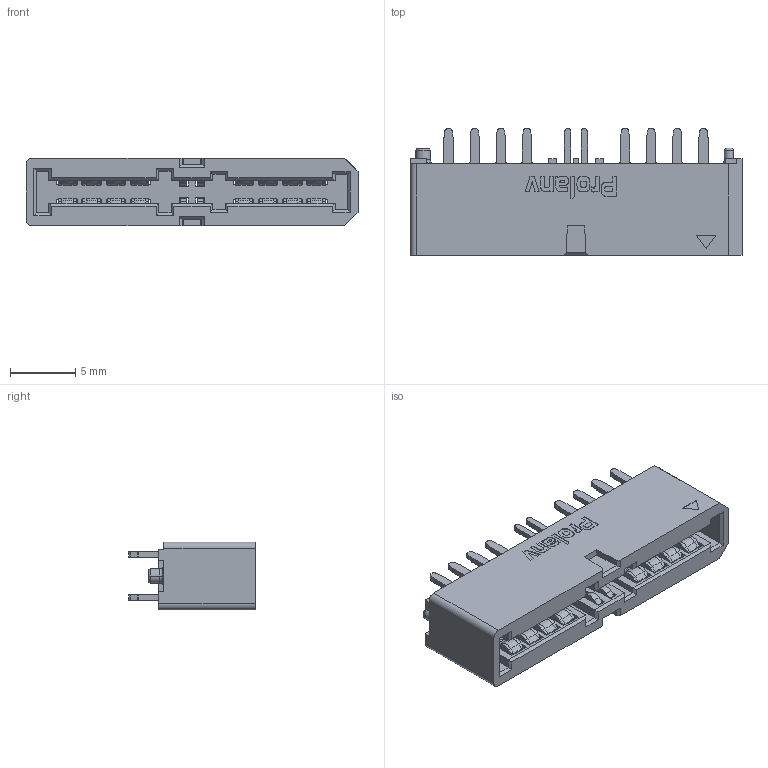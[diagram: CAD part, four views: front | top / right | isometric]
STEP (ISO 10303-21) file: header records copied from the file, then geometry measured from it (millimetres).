
FILE_DESCRIPTION((''),'2;1');
FILE_NAME('333','2024-02-28T16:18:12',('henry'),(''),'CREO PARAMETRIC BY PTC INC, 2023073','CREO PARAMETRIC BY PTC INC, 2023073','');
FILE_SCHEMA(('CONFIG_CONTROL_DESIGN'));
Length unit declared in the file: millimetre
Products named in the file (1): 333
Bounding box: 25.4 x 9.7 x 5.2 mm (x, y, z)
Volume: 585.4 mm3; surface area: 1874.6 mm2
Topology: 1 solids, 1 shells, 1485 faces, 4472 edges, 2978 vertices
Faces by surface type: plane 787, cylinder 532, extrusion 56, torus 44, bspline 34, sphere 32
Entity records: 52083 total; most frequent: CARTESIAN_POINT 10940, ORIENTED_EDGE 8944, DIRECTION 8518, EDGE_CURVE 4472, VERTEX_POINT 2978, VECTOR 2868, AXIS2_PLACEMENT_3D 2825, LINE 2812
